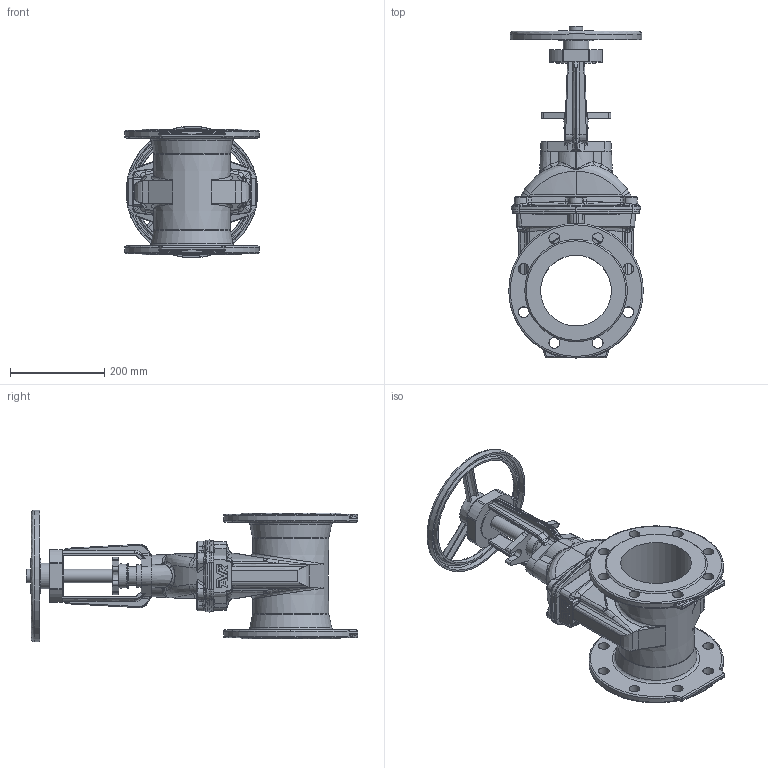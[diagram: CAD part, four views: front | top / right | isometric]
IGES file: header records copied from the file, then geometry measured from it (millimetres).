
Start section: SolidWorks IGES file using analytic representation for surfaces
Global section: file name: \\avksan2\techshare\PBM outline export from Enovia\O_21_34_DN150_41XXXXX close_AA0.igs; native system: SolidWorks 2012; preprocessor: SolidWorks 2012; author: pbm; date: 200212.100916; units: millimetre
Bounding box: 285 x 703.87 x 279.74 mm (x, y, z)
Surface area: 849116.4 mm2 (no closed solid volume)
Topology: 0 solids, 0 shells, 860 faces, 4450 edges, 4343 vertices
Faces by surface type: bspline 469, revolution 391
